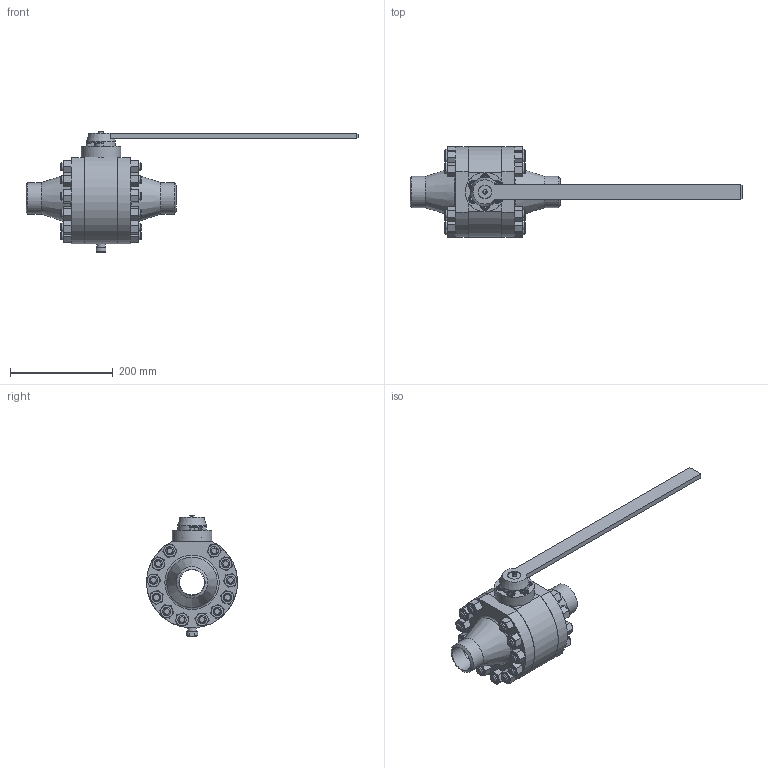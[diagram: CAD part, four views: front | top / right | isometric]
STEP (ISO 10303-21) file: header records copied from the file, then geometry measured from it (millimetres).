
FILE_DESCRIPTION(('STEP AP203'), '1');
FILE_NAME('ZARDP 050.160.40.P.stp', '2013-12-06T08:15:18', ('Øèøêî'), ('ÎÎÎ ÈÊ Ýíåðïðåä-ßðäîñ'), 'ASCON STEP Converter 1.3', 'Kompas 3D', '');
FILE_SCHEMA(('CONFIG_CONTROL_DESIGN','SUPPORT_RESOURCE_SCHEMA'));
Length unit declared in the file: millimetre
Products named in the file (1): 208
Bounding box: 646 x 177.37 x 235.17 mm (x, y, z)
Volume: 2995857.4 mm3; surface area: 394099 mm2
Topology: 1 solids, 34 shells, 993 faces, 2341 edges, 1515 vertices
Faces by surface type: plane 463, cone 364, cylinder 164, torus 2
Full cylindrical faces by diameter (mm): 5 x1, 5.3 x1, 8 x8, 8.5 x1, 9.38 x6, 10 x6, 11 x6, 14.5 x1, 16 x6, 16.01 x24, 17 x6, 17.33 x1, 18 x24, 19.124 x24, 23.5 x1, 24.8 x1, 25 x2, 26 x1, 34.5 x1, 35 x1, 40 x1, 49 x2, 50 x2, 56 x1, 61 x2, 77 x1, 95 x3, 109 x2
Entity records: 45206 total; most frequent: CARTESIAN_POINT 22909, ORIENTED_EDGE 4670, DIRECTION 4420, EDGE_CURVE 2335, AXIS2_PLACEMENT_3D 1764, VERTEX_POINT 1515, EDGE_LOOP 1128, ADVANCED_FACE 993
